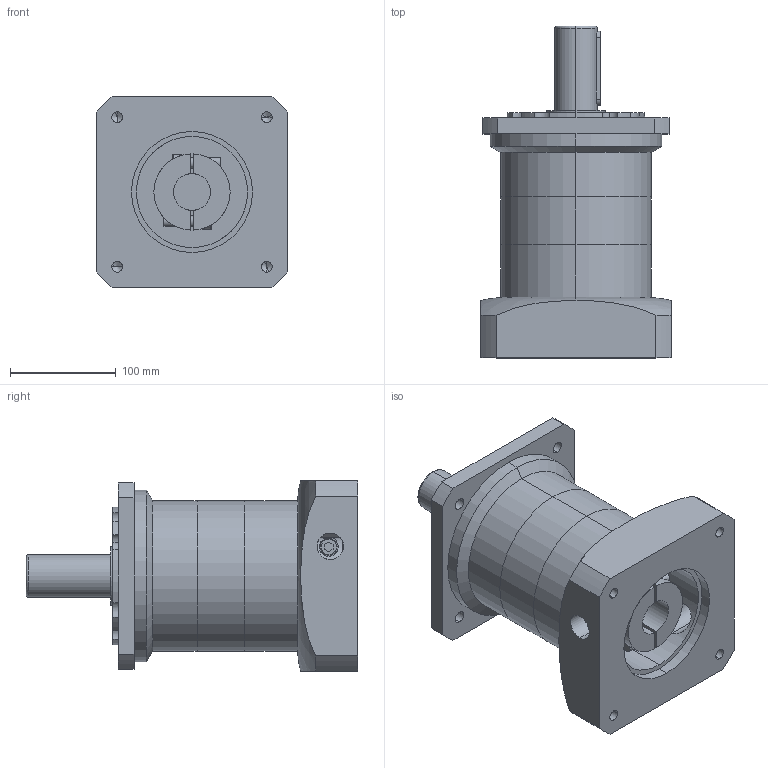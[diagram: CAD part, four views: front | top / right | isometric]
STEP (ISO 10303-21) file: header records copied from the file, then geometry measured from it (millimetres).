
FILE_DESCRIPTION (( 'STEP AP203' ), '1' );
FILE_NAME ('WPF142ﾐﾂ-L2(3KW)ﾍ簟ﾎﾍｼ(35-81-114.3-200-M12).STEP', '2018-01-19T07:37:40', ( 'User' ), ( 'China' ), 'SwSTEP 2.0', 'SolidWorks 2013', '' );
FILE_SCHEMA (( 'CONFIG_CONTROL_DESIGN' ));
Length unit declared in the file: millimetre
Products named in the file (1): WPF142ﾐﾂ-L2(3KW)ﾍ簟ﾎﾍｼ(35-81-114.3-200-M12)
Bounding box: 180 x 313.5 x 180 mm (x, y, z)
Volume: 4398183 mm3; surface area: 377725 mm2
Topology: 6 solids, 6 shells, 289 faces, 690 edges, 439 vertices
Faces by surface type: plane 133, cylinder 116, torus 24, cone 16
Entity records: 9151 total; most frequent: CARTESIAN_POINT 2148, DIRECTION 1538, ORIENTED_EDGE 1360, EDGE_CURVE 680, AXIS2_PLACEMENT_3D 587, VERTEX_POINT 439, VECTOR 364, LINE 364
